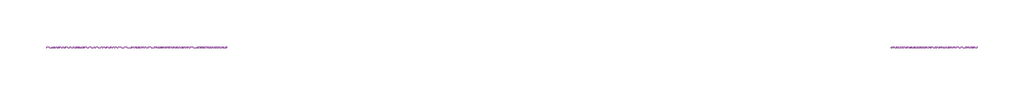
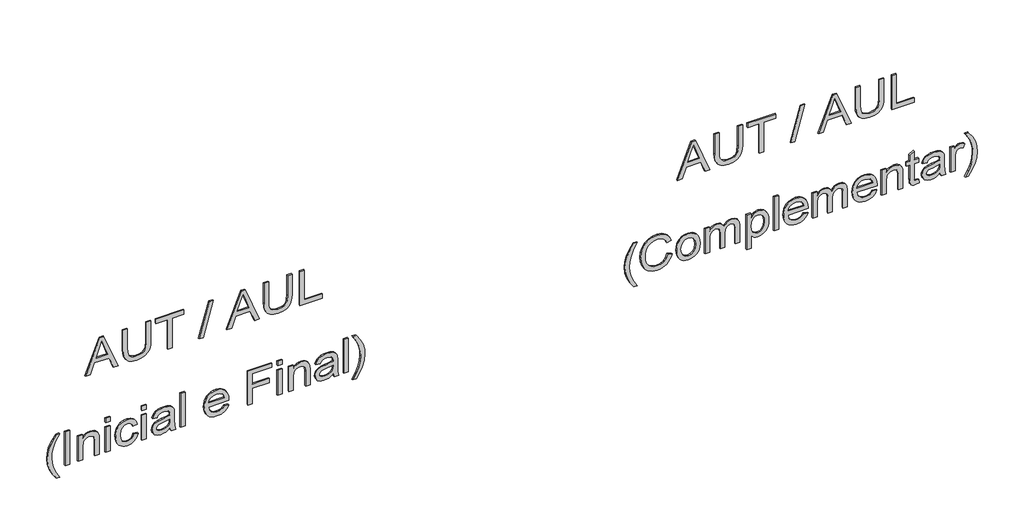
# One storey, part 2 of 14: 2 proxies.
"""IFC4 building model written with IfcOpenShell, lengths in millimetres."""

from ifc_helpers import new_model, si_unit, frame, origin, place, context, project, spatial, polyline, outline, extrude, element, save

model = new_model("IFC4")

# Units and contexts
model_context = context("Model", 3, world=origin())
ifc_project = project(units=[si_unit("LENGTHUNIT", "METRE", prefix="MILLI")], contexts=[model_context])

# Site, building, storey
site = spatial("IfcSite", under=ifc_project)
building = spatial("IfcBuilding", under=site)
storey = spatial("IfcBuildingStorey", under=building, Name="04 - Marelli - Planta Baixa - Painéis de Vidro", Elevation=36000.0)

# Proxies
placement = place(None, origin())
element("IfcBuildingElementProxy", 1, Name="300mm Arial", ObjectType="300mm Arial", at=placement, inside=storey, context=model_context, shape_type="SweptSolid", body=[
    extrude(outline(polyline([(42065.9244535, 2921.6887726), (42065.9244535, 2961.4936045), (42160.1022443, 2995.9273592), (42160.1022443, 3120.0507444), (42065.9244535, 3154.5580756), (42065.9244535, 3194.3629074), (42367.293384, 3074.065495), (42367.293384, 3041.986185), (42065.9244535, 2921.6887726)]), holes=[polyline([(42197.7733606, 3009.7597223), (42278.3395176, 3039.2638583), (42329.6222677, 3058.02584), (42271.8647944, 3079.1422666), (42197.7733606, 3106.2919578), (42197.7733606, 3009.7597223)])]), frame((0.0, 8778.3159498, 0.0), z_axis=(0.0, 1.0, 0.0), x_axis=(0.0, 0.0, 1.0)), (0.0, 0.0, 1.0), 10.0),
    extrude(outline(polyline([(42367.293384, 3432.3825583), (42194.7567282, 3432.3825583), (42147.5942565, 3427.6184865), (42130.8556257, 3421.6633967), (42118.6787316, 3413.326271), (42110.0197092, 3402.1932421), (42103.8346931, 3387.8504428), (42098.8866803, 3349.535533), (42101.3882779, 3325.3656859), (42108.8930706, 3305.2425408), (42121.0055853, 3289.8098911), (42137.3303488, 3279.7115303), (42160.9023876, 3274.1381181), (42194.7567282, 3272.280314), (42367.293384, 3272.280314), (42367.293384, 3234.6091977), (42193.4323531, 3234.6091977), (42150.6568741, 3237.4694802), (42117.9797559, 3246.0503278), (42093.6167707, 3261.3174306), (42075.783691, 3284.2364789), (42064.8575957, 3314.8166697), (42061.215564, 3353.0672002), (42065.4002217, 3392.1730563), (42077.9541948, 3422.9647792), (42097.176029, 3445.4975515), (42121.3642702, 3459.8265552), (42152.7170132, 3467.4968948), (42193.4323531, 3470.0536746), (42367.293384, 3470.0536746), (42367.293384, 3432.3825583)])), frame((0.0, 8778.3159498, 0.0), z_axis=(0.0, 1.0, 0.0), x_axis=(0.0, 0.0, 1.0)), (0.0, 0.0, 1.0), 10.0),
    extrude(outline(polyline([(42065.9244535, 3611.3203608), (42065.9244535, 3648.9914771), (42329.6222677, 3648.9914771), (42329.6222677, 3747.8781574), (42367.293384, 3747.8781574), (42367.293384, 3512.4336805), (42329.6222677, 3512.4336805), (42329.6222677, 3611.3203608), (42065.9244535, 3611.3203608)])), frame((0.0, 8778.3159498, 0.0), z_axis=(0.0, 1.0, 0.0), x_axis=(0.0, 0.0, 1.0)), (0.0, 0.0, 1.0), 10.0),
    extrude(outline(polyline([(42065.9244535, 3875.0181749), (42065.9244535, 3909.0104713), (42367.293384, 3993.770483), (42367.293384, 3959.7781866), (42065.9244535, 3875.0181749)])), frame((0.0, 8778.3159498, 0.0), z_axis=(0.0, 1.0, 0.0), x_axis=(0.0, 0.0, 1.0)), (0.0, 0.0, 1.0), 10.0),
    extrude(outline(polyline([(42065.9244535, 4108.3289363), (42065.9244535, 4148.1337681), (42160.1022443, 4182.5675229), (42160.1022443, 4306.6909081), (42065.9244535, 4341.1982392), (42065.9244535, 4381.0030711), (42367.293384, 4260.7056587), (42367.293384, 4228.6263487), (42065.9244535, 4108.3289363)]), holes=[polyline([(42197.7733606, 4196.3998859), (42278.3395176, 4225.9040219), (42329.6222677, 4244.6660037), (42271.8647944, 4265.7824302), (42197.7733606, 4292.9321214), (42197.7733606, 4196.3998859)])]), frame((0.0, 8778.3159498, 0.0), z_axis=(0.0, 1.0, 0.0), x_axis=(0.0, 0.0, 1.0)), (0.0, 0.0, 1.0), 10.0),
    extrude(outline(polyline([(42367.293384, 4619.022722), (42194.7567282, 4619.022722), (42147.5942565, 4614.2586501), (42130.8556257, 4608.3035603), (42118.6787316, 4599.9664346), (42110.0197092, 4588.8334057), (42103.8346931, 4574.4906065), (42098.8866803, 4536.1756967), (42101.3882779, 4512.0058496), (42108.8930706, 4491.8827044), (42121.0055853, 4476.4500547), (42137.3303488, 4466.351694), (42160.9023876, 4460.7782817), (42194.7567282, 4458.9204777), (42367.293384, 4458.9204777), (42367.293384, 4421.2493614), (42193.4323531, 4421.2493614), (42150.6568741, 4424.1096439), (42117.9797559, 4432.6904914), (42093.6167707, 4447.9575942), (42075.783691, 4470.8766425), (42064.8575957, 4501.4568334), (42061.215564, 4539.7073638), (42065.4002217, 4578.8132199), (42077.9541948, 4609.6049429), (42097.176029, 4632.1377151), (42121.3642702, 4646.4667188), (42152.7170132, 4654.1370584), (42193.4323531, 4656.6938383), (42367.293384, 4656.6938383), (42367.293384, 4619.022722)])), frame((0.0, 8778.3159498, 0.0), z_axis=(0.0, 1.0, 0.0), x_axis=(0.0, 0.0, 1.0)), (0.0, 0.0, 1.0), 10.0),
    extrude(outline(polyline([(42065.9244535, 4722.6182918), (42065.9244535, 4910.9738733), (42103.5955698, 4910.9738733), (42103.5955698, 4760.2894081), (42367.293384, 4760.2894081), (42367.293384, 4722.6182918), (42065.9244535, 4722.6182918)])), frame((0.0, 8778.3159498, 0.0), z_axis=(0.0, 1.0, 0.0), x_axis=(0.0, 0.0, 1.0)), (0.0, 0.0, 1.0), 10.0),
    extrude(outline(polyline([(41249.3155348, 2674.2513427), (41249.3155348, 2702.5046799), (41297.5540614, 2673.6627315), (41345.8109821, 2653.0613397), (41394.0862969, 2640.7005047), (41442.3800058, 2636.5802264), (41480.2534572, 2638.9530652), (41517.9429677, 2646.0715818), (41575.7740173, 2667.2615848), (41635.4444769, 2702.5046799), (41635.4444769, 2674.2513427), (41584.934279, 2639.5600705), (41534.2033518, 2615.2430706), (41489.4137189, 2602.9926002), (41442.600735, 2598.9091101), (41389.2210575, 2604.3721577), (41337.68079, 2620.7613006), (41290.2791949, 2645.0599063), (41249.3155348, 2674.2513427)])), frame((0.0, 8778.3159498, 0.0), z_axis=(0.0, 1.0, 0.0), x_axis=(0.0, 0.0, 1.0)), (0.0, 0.0, 1.0), 10.0),
    extrude(outline(polyline([(2787.2646916, 8778.3159498), (2749.5935753, 8778.3159498), (2749.5935753, 8788.3159498), (2787.2646916, 8788.3159498), (2787.2646916, 8778.3159498)])), frame((0.0, 0.0, 41334.0755465), z_axis=(0.0, 0.0, 1.0), x_axis=(1.0, 0.0, 0.0)), (0.0, 0.0, 1.0), 301.3689304),
    extrude(outline(polyline([(41334.0755465, 2857.8980347), (41334.0755465, 2895.569151), (41451.5034793, 2895.569151), (41486.2131456, 2899.8641733), (41498.5877762, 2905.2329511), (41507.6422718, 2912.7492401), (41518.7339139, 2931.5572071), (41522.431128, 2953.6209298), (41520.7848561, 2967.5176722), (41515.8460403, 2979.4830341), (41508.1481095, 2988.8180397), (41498.2244927, 2994.8237133), (41464.8943839, 2999.1647208), (41334.0755465, 2999.1647208), (41334.0755465, 3036.8358371), (41469.9711555, 3036.8358371), (41506.391473, 3034.8492743), (41534.0929872, 3023.5552971), (41544.6328064, 3013.4569363), (41552.9285454, 2999.2750854), (41558.3088196, 2982.2697402), (41560.1022443, 2963.7008965), (41557.8765582, 2942.7224257), (41551.1995, 2924.3743112), (41540.0710697, 2908.6565529), (41524.4912672, 2895.569151), (41555.3933548, 2895.569151), (41555.3933548, 2857.8980347), (41334.0755465, 2857.8980347)])), frame((0.0, 8778.3159498, 0.0), z_axis=(0.0, 1.0, 0.0), x_axis=(0.0, 0.0, 1.0)), (0.0, 0.0, 1.0), 10.0),
    extrude(outline(polyline([(3126.3047383, 8778.3159498), (3088.633622, 8778.3159498), (3088.633622, 8788.3159498), (3126.3047383, 8788.3159498), (3126.3047383, 8778.3159498)])), frame((0.0, 0.0, 41597.7733606), z_axis=(0.0, 0.0, 1.0), x_axis=(1.0, 0.0, 0.0)), (0.0, 0.0, 1.0), 37.6711163),
    extrude(outline(polyline([(3126.3047383, 8778.3159498), (3088.633622, 8778.3159498), (3088.633622, 8788.3159498), (3126.3047383, 8788.3159498), (3126.3047383, 8778.3159498)])), frame((0.0, 0.0, 41334.0755465), z_axis=(0.0, 0.0, 1.0), x_axis=(1.0, 0.0, 0.0)), (0.0, 0.0, 1.0), 221.3178083),
    extrude(outline(polyline([(41414.1266686, 3324.0780989), (41393.2493654, 3317.6493611), (41378.5892679, 3306.015093), (41369.9256469, 3290.0214232), (41367.0377732, 3270.5144804), (41371.6638893, 3246.4825891), (41385.5422376, 3227.5090752), (41409.6477053, 3215.1758313), (41444.9551798, 3211.06475), (41479.7936048, 3215.2678018), (41503.816299, 3227.8769572), (41517.7774208, 3247.199959), (41522.431128, 3271.54455), (41520.0674862, 3288.0348605), (41512.9765607, 3301.8948146), (41501.1951398, 3312.5358013), (41484.7600117, 3319.3692094), (41489.4689012, 3357.0403257), (41519.4512838, 3346.7856151), (41541.7081445, 3328.5294711), (41555.5037194, 3303.0812341), (41560.1022443, 3271.2502444), (41556.7545181, 3244.6063909), (41546.7113397, 3220.0042825), (41529.9635118, 3199.439679), (41506.5018376, 3184.9083402), (41477.448357, 3176.2723103), (41443.9251102, 3173.3936337), (41417.8675687, 3175.0789931), (41395.024396, 3180.1350713), (41375.3955923, 3188.5618682), (41358.9811575, 3200.359384), (41346.0248135, 3214.9344088), (41336.7702821, 3231.6937329), (41331.2175632, 3250.6373564), (41329.3666569, 3271.7652792), (41334.6733547, 3304.3964122), (41350.593448, 3331.5093152), (41375.9129264, 3351.2461843), (41409.4177791, 3361.7492153), (41414.1266686, 3324.0780989)])), frame((0.0, 8778.3159498, 0.0), z_axis=(0.0, 1.0, 0.0), x_axis=(0.0, 0.0, 1.0)), (0.0, 0.0, 1.0), 10.0),
    extrude(outline(polyline([(3432.3825583, 8778.3159498), (3394.711442, 8778.3159498), (3394.711442, 8788.3159498), (3432.3825583, 8788.3159498), (3432.3825583, 8778.3159498)])), frame((0.0, 0.0, 41597.7733606), z_axis=(0.0, 0.0, 1.0), x_axis=(1.0, 0.0, 0.0)), (0.0, 0.0, 1.0), 37.6711163),
    extrude(outline(polyline([(3432.3825583, 8778.3159498), (3394.711442, 8778.3159498), (3394.711442, 8788.3159498), (3432.3825583, 8788.3159498), (3432.3825583, 8778.3159498)])), frame((0.0, 0.0, 41334.0755465), z_axis=(0.0, 0.0, 1.0), x_axis=(1.0, 0.0, 0.0)), (0.0, 0.0, 1.0), 221.3178083),
    extrude(outline(polyline([(41362.3288837, 3630.1559189), (41334.0755465, 3639.573698), (41334.0755465, 3677.2448143), (41365.7501862, 3669.7400216), (41431.1963932, 3667.8270352), (41478.0645594, 3667.8270352), (41511.0267861, 3665.9876253), (41525.1442577, 3661.4442826), (41536.5945848, 3654.4361306), (41545.856014, 3643.8687203), (41553.406792, 3628.6476028), (41558.4283812, 3608.4600783), (41560.1022443, 3582.9934472), (41558.207652, 3556.4415641), (41552.5238752, 3533.2925896), (41543.3452194, 3514.365061), (41530.9659903, 3500.4775156), (41514.7791825, 3490.7194457), (41494.1777908, 3484.1803432), (41489.4689012, 3521.8514596), (41505.1314772, 3529.3378582), (41515.1838527, 3540.0248301), (41520.6193092, 3555.6966031), (41522.431128, 3578.1374048), (41519.7088012, 3602.3808283), (41511.5418209, 3619.7816467), (41500.5421493, 3627.5623509), (41483.7299421, 3630.1559189), (41475.3422326, 3629.9351897), (41468.3524747, 3603.1165923), (41462.3927864, 3564.5993474), (41456.7274037, 3532.0050026), (41444.3665686, 3505.6278636), (41434.8752131, 3495.0236651), (41422.7351073, 3486.6819408), (41408.5532564, 3481.2740755), (41392.9366657, 3479.4714537), (41367.6079903, 3484.2447226), (41347.2457219, 3498.5645293), (41333.8364232, 3521.7870802), (41329.3666569, 3553.2685819), (41331.224461, 3574.1366881), (41336.7978732, 3593.6252368), (41346.896234, 3612.1572923), (41362.3288837, 3630.1559189)]), holes=[polyline([(41437.6711163, 3630.1559189), (41427.0025384, 3629.9351897), (41410.0799667, 3628.4452677), (41397.8662844, 3623.9755014), (41386.0112871, 3613.8955347), (41376.0508821, 3599.4009841), (41369.2910505, 3581.5219192), (41367.0377732, 3561.2884094), (41369.0795183, 3542.2045309), (41375.2047535, 3528.3629709), (41384.3834093, 3519.9476702), (41395.5854161, 3517.14257), (41410.0799667, 3522.2929179), (41420.0127805, 3536.9714096), (41426.1196217, 3569.3818133), (41437.6711163, 3630.1559189)])]), frame((0.0, 8778.3159498, 0.0), z_axis=(0.0, 1.0, 0.0), x_axis=(0.0, 0.0, 1.0)), (0.0, 0.0, 1.0), 10.0),
    extrude(outline(polyline([(3757.2959365, 8778.3159498), (3719.6248202, 8778.3159498), (3719.6248202, 8788.3159498), (3757.2959365, 8788.3159498), (3757.2959365, 8778.3159498)])), frame((0.0, 0.0, 41334.0755465), z_axis=(0.0, 0.0, 1.0), x_axis=(1.0, 0.0, 0.0)), (0.0, 0.0, 1.0), 301.3689304),
    extrude(outline(polyline([(41400.0, 4086.4767457), (41385.1191733, 4075.9185325), (41374.9104479, 4062.1965341), (41369.0059419, 4045.3107505), (41367.0377732, 4025.2611818), (41371.2868103, 3998.5989342), (41384.0339214, 3976.7375466), (41404.7640718, 3961.5900054), (41432.9622268, 3955.0692971), (41432.9622268, 4124.3685913), (41443.1157698, 4124.5893205), (41469.3687487, 4122.8027935), (41492.5039277, 4117.4432127), (41512.5213067, 4108.510578), (41529.4208859, 4096.0048894), (41542.8439802, 4080.6849036), (41552.4319047, 4063.3093771), (41558.1846594, 4043.87831), (41560.1022443, 4022.3917022), (41558.1800609, 4000.1900238), (41552.4135106, 3980.1588491), (41542.8025935, 3962.2981783), (41529.3473095, 3946.6080112), (41512.4109422, 3933.8287104), (41492.3567749, 3924.7006384), (41469.1848077, 3919.2237952), (41442.8950406, 3917.3981808), (41417.467497, 3919.2054011), (41395.0427901, 3924.627062), (41375.62092, 3933.6631635), (41359.2018867, 3946.3137056), (41346.1489737, 3962.0452594), (41336.8254644, 3980.324396), (41331.2313588, 4001.1511155), (41329.3666569, 4024.5254178), (41333.6892704, 4060.1823801), (41346.6571107, 4088.8679787), (41367.4608375, 4110.1039669), (41395.2911105, 4123.4120981), (41400.0, 4086.4767457)]), holes=[polyline([(41470.6333431, 3955.0692971), (41491.8693312, 3961.2589116), (41508.3412476, 3975.8546298), (41518.9086579, 3996.8514947), (41522.431128, 4022.2445494), (41518.0165441, 4049.8724872), (41504.7727922, 4071.8350423), (41490.535759, 4081.8230385), (41470.6333431, 4086.9182041), (41470.6333431, 3955.0692971)])]), frame((0.0, 8778.3159498, 0.0), z_axis=(0.0, 1.0, 0.0), x_axis=(0.0, 0.0, 1.0)), (0.0, 0.0, 1.0), 10.0),
    extrude(outline(polyline([(41334.0755465, 4284.6915648), (41334.0755465, 4322.3626811), (41470.6333431, 4322.3626811), (41470.6333431, 4463.6293672), (41508.3044594, 4463.6293672), (41508.3044594, 4322.3626811), (41597.7733606, 4322.3626811), (41597.7733606, 4487.1738149), (41635.4444769, 4487.1738149), (41635.4444769, 4284.6915648), (41334.0755465, 4284.6915648)])), frame((0.0, 8778.3159498, 0.0), z_axis=(0.0, 1.0, 0.0), x_axis=(0.0, 0.0, 1.0)), (0.0, 0.0, 1.0), 10.0),
    extrude(outline(polyline([(4571.9338266, 8778.3159498), (4534.2627103, 8778.3159498), (4534.2627103, 8788.3159498), (4571.9338266, 8788.3159498), (4571.9338266, 8778.3159498)])), frame((0.0, 0.0, 41597.7733606), z_axis=(0.0, 0.0, 1.0), x_axis=(1.0, 0.0, 0.0)), (0.0, 0.0, 1.0), 37.6711163),
    extrude(outline(polyline([(4571.9338266, 8778.3159498), (4534.2627103, 8778.3159498), (4534.2627103, 8788.3159498), (4571.9338266, 8788.3159498), (4571.9338266, 8778.3159498)])), frame((0.0, 0.0, 41334.0755465), z_axis=(0.0, 0.0, 1.0), x_axis=(1.0, 0.0, 0.0)), (0.0, 0.0, 1.0), 221.3178083),
    extrude(outline(polyline([(41334.0755465, 4628.440501), (41334.0755465, 4666.1116174), (41451.5034793, 4666.1116174), (41486.2131456, 4670.4066396), (41498.5877762, 4675.7754175), (41507.6422718, 4683.2917065), (41518.7339139, 4702.0996735), (41522.431128, 4724.1633962), (41520.7848561, 4738.0601386), (41515.8460403, 4750.0255005), (41508.1481095, 4759.3605061), (41498.2244927, 4765.3661796), (41464.8943839, 4769.7071872), (41334.0755465, 4769.7071872), (41334.0755465, 4807.3783035), (41469.9711555, 4807.3783035), (41506.391473, 4805.3917407), (41534.0929872, 4794.0977635), (41544.6328064, 4783.9994027), (41552.9285454, 4769.8175518), (41558.3088196, 4752.8122066), (41560.1022443, 4734.2433629), (41557.8765582, 4713.2648921), (41551.1995, 4694.9167776), (41540.0710697, 4679.1990193), (41524.4912672, 4666.1116174), (41555.3933548, 4666.1116174), (41555.3933548, 4628.440501), (41334.0755465, 4628.440501)])), frame((0.0, 8778.3159498, 0.0), z_axis=(0.0, 1.0, 0.0), x_axis=(0.0, 0.0, 1.0)), (0.0, 0.0, 1.0), 10.0),
    extrude(outline(polyline([(41362.3288837, 5000.4427746), (41334.0755465, 5009.8605536), (41334.0755465, 5047.5316699), (41365.7501862, 5040.0268772), (41431.1963932, 5038.1138909), (41478.0645594, 5038.1138909), (41511.0267861, 5036.2744809), (41525.1442577, 5031.7311383), (41536.5945848, 5024.7229862), (41545.856014, 5014.1555759), (41553.406792, 4998.9344584), (41558.4283812, 4978.7469339), (41560.1022443, 4953.2803028), (41558.207652, 4926.7284198), (41552.5238752, 4903.5794452), (41543.3452194, 4884.6519166), (41530.9659903, 4870.7643713), (41514.7791825, 4861.0063013), (41494.1777908, 4854.4671989), (41489.4689012, 4892.1383152), (41505.1314772, 4899.6247138), (41515.1838527, 4910.3116857), (41520.6193092, 4925.9834587), (41522.431128, 4948.4242604), (41519.7088012, 4972.6676839), (41511.5418209, 4990.0685023), (41500.5421493, 4997.8492065), (41483.7299421, 5000.4427746), (41475.3422326, 5000.2220454), (41468.3524747, 4973.4034479), (41462.3927864, 4934.886203), (41456.7274037, 4902.2918583), (41444.3665686, 4875.9147192), (41434.8752131, 4865.3105207), (41422.7351073, 4856.9687964), (41408.5532564, 4851.5609311), (41392.9366657, 4849.7583093), (41367.6079903, 4854.5315782), (41347.2457219, 4868.8513849), (41333.8364232, 4892.0739358), (41329.3666569, 4923.5554376), (41331.224461, 4944.4235438), (41336.7978732, 4963.9120924), (41346.896234, 4982.444148), (41362.3288837, 5000.4427746)]), holes=[polyline([(41437.6711163, 5000.4427746), (41427.0025384, 5000.2220454), (41410.0799667, 4998.7321233), (41397.8662844, 4994.262357), (41386.0112871, 4984.1823904), (41376.0508821, 4969.6878398), (41369.2910505, 4951.8087748), (41367.0377732, 4931.5752651), (41369.0795183, 4912.4913866), (41375.2047535, 4898.6498265), (41384.3834093, 4890.2345259), (41395.5854161, 4887.4294256), (41410.0799667, 4892.5797736), (41420.0127805, 4907.2582652), (41426.1196217, 4939.668669), (41437.6711163, 5000.4427746)])]), frame((0.0, 8778.3159498, 0.0), z_axis=(0.0, 1.0, 0.0), x_axis=(0.0, 0.0, 1.0)), (0.0, 0.0, 1.0), 10.0),
    extrude(outline(polyline([(5127.5827921, 8778.3159498), (5089.9116758, 8778.3159498), (5089.9116758, 8788.3159498), (5127.5827921, 8788.3159498), (5127.5827921, 8778.3159498)])), frame((0.0, 0.0, 41334.0755465), z_axis=(0.0, 0.0, 1.0), x_axis=(1.0, 0.0, 0.0)), (0.0, 0.0, 1.0), 301.3689304),
    extrude(outline(polyline([(41249.3155348, 5193.5072456), (41290.2791949, 5222.5607262), (41337.68079, 5246.8869231), (41389.2210575, 5263.3588395), (41442.600735, 5268.8494782), (41489.4137189, 5264.7659881), (41534.2033518, 5252.5155177), (41584.934279, 5228.1985178), (41635.4444769, 5193.5072456), (41635.4444769, 5165.2539084), (41575.1854061, 5200.7177327), (41546.8400984, 5212.6922917), (41517.2807801, 5221.6870065), (41479.9775458, 5228.8055231), (41442.3800058, 5231.1783619), (41394.0862969, 5227.0580836), (41345.8109821, 5214.6972486), (41297.5540614, 5194.0958568), (41249.3155348, 5165.2539084), (41249.3155348, 5193.5072456)])), frame((0.0, 8778.3159498, 0.0), z_axis=(0.0, 1.0, 0.0), x_axis=(0.0, 0.0, 1.0)), (0.0, 0.0, 1.0), 10.0),
])
element("IfcBuildingElementProxy", 2, Name="300mm Arial", ObjectType="300mm Arial", at=placement, inside=storey, context=model_context, shape_type="SweptSolid", body=[
    extrude(outline(polyline([(42065.9244535, 7893.4354354), (42065.9244535, 7933.2402673), (42160.1022443, 7967.674022), (42160.1022443, 8091.7974072), (42065.9244535, 8126.3047383), (42065.9244535, 8166.1095702), (42367.293384, 8045.8121578), (42367.293384, 8013.7328478), (42065.9244535, 7893.4354354)]), holes=[polyline([(42197.7733606, 7981.506385), (42278.3395176, 8011.0105211), (42329.6222677, 8029.7725028), (42271.8647944, 8050.8889293), (42197.7733606, 8078.0386206), (42197.7733606, 7981.506385)])]), frame((0.0, 8778.3159498, 0.0), z_axis=(0.0, 1.0, 0.0), x_axis=(0.0, 0.0, 1.0)), (0.0, 0.0, 1.0), 10.0),
    extrude(outline(polyline([(42367.293384, 8404.1292211), (42194.7567282, 8404.1292211), (42147.5942565, 8399.3651493), (42130.8556257, 8393.4100595), (42118.6787316, 8385.0729337), (42110.0197092, 8373.9399049), (42103.8346931, 8359.5971056), (42098.8866803, 8321.2821958), (42101.3882779, 8297.1123487), (42108.8930706, 8276.9892036), (42121.0055853, 8261.5565539), (42137.3303488, 8251.4581931), (42160.9023876, 8245.8847809), (42194.7567282, 8244.0269768), (42367.293384, 8244.0269768), (42367.293384, 8206.3558605), (42193.4323531, 8206.3558605), (42150.6568741, 8209.216143), (42117.9797559, 8217.7969905), (42093.6167707, 8233.0640933), (42075.783691, 8255.9831416), (42064.8575957, 8286.5633325), (42061.215564, 8324.8138629), (42065.4002217, 8363.919719), (42077.9541948, 8394.711442), (42097.176029, 8417.2442142), (42121.3642702, 8431.5732179), (42152.7170132, 8439.2435575), (42193.4323531, 8441.8003374), (42367.293384, 8441.8003374), (42367.293384, 8404.1292211)])), frame((0.0, 8778.3159498, 0.0), z_axis=(0.0, 1.0, 0.0), x_axis=(0.0, 0.0, 1.0)), (0.0, 0.0, 1.0), 10.0),
    extrude(outline(polyline([(42065.9244535, 8583.0670235), (42065.9244535, 8620.7381399), (42329.6222677, 8620.7381399), (42329.6222677, 8719.6248202), (42367.293384, 8719.6248202), (42367.293384, 8484.1803432), (42329.6222677, 8484.1803432), (42329.6222677, 8583.0670235), (42065.9244535, 8583.0670235)])), frame((0.0, 8778.3159498, 0.0), z_axis=(0.0, 1.0, 0.0), x_axis=(0.0, 0.0, 1.0)), (0.0, 0.0, 1.0), 10.0),
    extrude(outline(polyline([(42065.9244535, 8846.7648377), (42065.9244535, 8880.757134), (42367.293384, 8965.5171457), (42367.293384, 8931.5248494), (42065.9244535, 8846.7648377)])), frame((0.0, 8778.3159498, 0.0), z_axis=(0.0, 1.0, 0.0), x_axis=(0.0, 0.0, 1.0)), (0.0, 0.0, 1.0), 10.0),
    extrude(outline(polyline([(42065.9244535, 9080.075599), (42065.9244535, 9119.8804309), (42160.1022443, 9154.3141857), (42160.1022443, 9278.4375708), (42065.9244535, 9312.944902), (42065.9244535, 9352.7497339), (42367.293384, 9232.4523214), (42367.293384, 9200.3730115), (42065.9244535, 9080.075599)]), holes=[polyline([(42197.7733606, 9168.1465487), (42278.3395176, 9197.6506847), (42329.6222677, 9216.4126664), (42271.8647944, 9237.529093), (42197.7733606, 9264.6787842), (42197.7733606, 9168.1465487)])]), frame((0.0, 8778.3159498, 0.0), z_axis=(0.0, 1.0, 0.0), x_axis=(0.0, 0.0, 1.0)), (0.0, 0.0, 1.0), 10.0),
    extrude(outline(polyline([(42367.293384, 9590.7693847), (42194.7567282, 9590.7693847), (42147.5942565, 9586.0053129), (42130.8556257, 9580.0502231), (42118.6787316, 9571.7130974), (42110.0197092, 9560.5800685), (42103.8346931, 9546.2372692), (42098.8866803, 9507.9223594), (42101.3882779, 9483.7525123), (42108.8930706, 9463.6293672), (42121.0055853, 9448.1967175), (42137.3303488, 9438.0983567), (42160.9023876, 9432.5249445), (42194.7567282, 9430.6671404), (42367.293384, 9430.6671404), (42367.293384, 9392.9960241), (42193.4323531, 9392.9960241), (42150.6568741, 9395.8563066), (42117.9797559, 9404.4371542), (42093.6167707, 9419.704257), (42075.783691, 9442.6233053), (42064.8575957, 9473.2034961), (42061.215564, 9511.4540266), (42065.4002217, 9550.5598827), (42077.9541948, 9581.3516057), (42097.176029, 9603.8843779), (42121.3642702, 9618.2133816), (42152.7170132, 9625.8837212), (42193.4323531, 9628.440501), (42367.293384, 9628.440501), (42367.293384, 9590.7693847)])), frame((0.0, 8778.3159498, 0.0), z_axis=(0.0, 1.0, 0.0), x_axis=(0.0, 0.0, 1.0)), (0.0, 0.0, 1.0), 10.0),
    extrude(outline(polyline([(42065.9244535, 9694.3649546), (42065.9244535, 9882.7205361), (42103.5955698, 9882.7205361), (42103.5955698, 9732.0360709), (42367.293384, 9732.0360709), (42367.293384, 9694.3649546), (42065.9244535, 9694.3649546)])), frame((0.0, 8778.3159498, 0.0), z_axis=(0.0, 1.0, 0.0), x_axis=(0.0, 0.0, 1.0)), (0.0, 0.0, 1.0), 10.0),
    extrude(outline(polyline([(41249.3155348, 7528.275767), (41249.3155348, 7556.5291042), (41297.5540614, 7527.6871558), (41345.8109821, 7507.0857641), (41394.0862969, 7494.724929), (41442.3800058, 7490.6046507), (41480.2534572, 7492.9774895), (41517.9429677, 7500.0960061), (41575.7740173, 7521.2860091), (41635.4444769, 7556.5291042), (41635.4444769, 7528.275767), (41584.934279, 7493.5844948), (41534.2033518, 7469.267495), (41489.4137189, 7457.0170245), (41442.600735, 7452.9335344), (41389.2210575, 7458.396582), (41337.68079, 7474.7857249), (41290.2791949, 7499.0843307), (41249.3155348, 7528.275767)])), frame((0.0, 8778.3159498, 0.0), z_axis=(0.0, 1.0, 0.0), x_axis=(0.0, 0.0, 1.0)), (0.0, 0.0, 1.0), 10.0),
    extrude(outline(polyline([(41441.2027835, 7810.8091393), (41408.9395325, 7798.6230482), (41385.7261786, 7778.8401939), (41371.7098746, 7752.6377988), (41367.0377732, 7721.1930852), (41370.4682728, 7694.218138), (41380.7597717, 7669.2113593), (41397.9858461, 7648.3524502), (41422.2200725, 7633.8211114), (41452.3128197, 7625.2954462), (41487.1144565, 7622.4535577), (41515.5333406, 7624.8539878), (41543.1060961, 7632.0552778), (41567.4966724, 7645.179468), (41586.3690188, 7665.3485984), (41598.4539423, 7691.9280725), (41602.4822501, 7724.283294), (41598.8494154, 7752.3526902), (41587.9509113, 7775.1981621), (41569.1061561, 7793.0404389), (41541.6345681, 7806.1002497), (41550.6108888, 7843.771366), (41588.4291579, 7827.1339028), (41603.751443, 7815.3317886), (41616.6824952, 7801.2074192), (41626.9510013, 7785.0275092), (41634.2856486, 7767.058773), (41640.1533665, 7725.754822), (41635.6192209, 7687.8997647), (41622.0167841, 7653.3556453), (41599.6771499, 7624.2285884), (41568.9314122, 7602.6247182), (41530.9843844, 7589.2430106), (41487.0408801, 7584.7824414), (41445.3782441, 7588.7279758), (41406.4747231, 7600.564579), (41373.3837376, 7619.9519602), (41349.1587083, 7646.5498284), (41334.3146698, 7681.2502976), (41329.3666569, 7724.9454816), (41331.0014325, 7747.3678892), (41335.9057594, 7767.987675), (41344.0796375, 7786.8048391), (41355.5230668, 7803.8193814), (41370.0796975, 7818.6956095), (41387.5931797, 7831.0978313), (41408.0635135, 7841.0260467), (41431.4906988, 7848.4802556), (41441.2027835, 7810.8091393)])), frame((0.0, 8778.3159498, 0.0), z_axis=(0.0, 1.0, 0.0), x_axis=(0.0, 0.0, 1.0)), (0.0, 0.0, 1.0), 10.0),
    extrude(outline(polyline([(41444.7344506, 7886.1513719), (41418.4124939, 7887.8597239), (41395.3646869, 7892.9847799), (41375.5910296, 7901.52654), (41359.0915221, 7913.4850041), (41346.0868936, 7928.2117802), (41336.7978732, 7945.0584764), (41331.224461, 7964.0250925), (41329.3666569, 7985.1116286), (41332.7419742, 8011.7002998), (41342.8679261, 8036.1368613), (41359.1007192, 8056.7106619), (41380.7965599, 8071.7110503), (41409.767267, 8080.8713119), (41447.8246594, 8083.9247325), (41472.7049786, 8082.1979864), (41494.7388108, 8077.017748), (41513.9261561, 8068.3840175), (41530.2670145, 8056.2967947), (41543.3199275, 8041.4872451), (41552.6434368, 8024.6865342), (41558.2375424, 8005.8946621), (41560.1022443, 7985.1116286), (41558.5709355, 7966.2852675), (41553.9770091, 7948.9488285), (41546.3204651, 7933.1023115), (41535.6013034, 7918.7457167), (41518.830483, 7904.4856908), (41498.095734, 7894.2999581), (41473.3970566, 7888.1885184), (41444.7344506, 7886.1513719)]), holes=[polyline([(41444.808027, 7923.8224882), (41478.8830968, 7928.1818898), (41503.1173232, 7941.2600948), (41517.6026768, 7960.9417815), (41522.431128, 7985.1116286), (41517.5842827, 8009.0331553), (41503.0437468, 8028.705645), (41479.0854319, 8041.8666234), (41445.9852494, 8046.2536162), (41411.1468245, 8041.8942145), (41386.535519, 8028.8160096), (41371.9122097, 8009.1711111), (41367.0377732, 7985.1116286), (41371.8846185, 7960.9417815), (41386.4251544, 7941.2600948), (41410.7145631, 7928.1818898), (41444.808027, 7923.8224882)])]), frame((0.0, 8778.3159498, 0.0), z_axis=(0.0, 1.0, 0.0), x_axis=(0.0, 0.0, 1.0)), (0.0, 0.0, 1.0), 10.0),
    extrude(outline(polyline([(41334.0755465, 8126.3047383), (41334.0755465, 8163.9758546), (41445.6909438, 8163.9758546), (41471.6082304, 8165.4105944), (41490.6461236, 8169.7148138), (41504.368122, 8177.2196065), (41514.3377241, 8188.2560663), (41520.407777, 8201.6285769), (41522.431128, 8216.1415216), (41519.3961015, 8233.2204432), (41510.2910222, 8244.7259526), (41495.0974958, 8251.2650551), (41473.7971282, 8253.4447559), (41334.0755465, 8253.4447559), (41334.0755465, 8291.1158722), (41459.008272, 8291.1158722), (41487.7214617, 8294.8038892), (41507.3479662, 8305.8679402), (41518.6603375, 8322.5054034), (41522.431128, 8342.9136571), (41520.9596, 8354.4743488), (41516.5450161, 8364.4347538), (41509.7300021, 8372.1786698), (41501.0571841, 8377.0898945), (41469.6032735, 8380.5847734), (41334.0755465, 8380.5847734), (41334.0755465, 8418.2558897), (41485.7900813, 8418.2558897), (41518.7615051, 8413.9424733), (41541.8920855, 8401.0022241), (41555.5497046, 8380.0605416), (41560.1022443, 8351.742825), (41557.366122, 8332.2174881), (41549.1577549, 8314.6235317), (41535.4771432, 8298.9609557), (41516.3242869, 8285.2297603), (41534.7643719, 8277.0259918), (41548.5875379, 8264.4812157), (41557.2235677, 8247.6874026), (41560.1022443, 8226.736523), (41557.27875, 8207.183595), (41548.808267, 8189.8747471), (41535.702471, 8175.3066201), (41518.9730372, 8163.9758546), (41555.3933548, 8163.9758546), (41555.3933548, 8126.3047383), (41334.0755465, 8126.3047383)])), frame((0.0, 8778.3159498, 0.0), z_axis=(0.0, 1.0, 0.0), x_axis=(0.0, 0.0, 1.0)), (0.0, 0.0, 1.0), 10.0),
    extrude(outline(polyline([(41249.3155348, 8474.7625642), (41249.3155348, 8512.4336805), (41363.5061061, 8512.4336805), (41349.9956398, 8523.0746672), (41339.0419534, 8536.309222), (41331.785481, 8551.7694628), (41329.3666569, 8569.0875077), (41332.9810975, 8593.5056752), (41343.8244193, 8616.7282261), (41361.4459669, 8636.6674302), (41385.3950848, 8651.2355573), (41414.2094421, 8660.1474986), (41446.4267078, 8663.1181457), (41476.7217901, 8660.4877894), (41504.4784866, 8652.5967206), (41527.9861461, 8639.5369098), (41545.5341173, 8621.4003274), (41556.4602125, 8599.1250726), (41560.1022443, 8573.6492445), (41557.4994792, 8554.5193807), (41549.6911838, 8538.4797257), (41536.6773583, 8524.7209391), (41518.4580024, 8512.4336805), (41555.3933548, 8512.4336805), (41555.3933548, 8474.7625642), (41249.3155348, 8474.7625642)]), holes=[polyline([(41442.968617, 8512.4336805), (41477.1356573, 8516.7838851), (41502.0872537, 8529.8344988), (41517.3451594, 8548.5321013), (41522.431128, 8569.8232717), (41517.6486621, 8591.0316687), (41503.3012642, 8609.0394924), (41479.3521464, 8621.3451451), (41445.7645202, 8625.4470294), (41410.7237602, 8621.2439776), (41386.2412134, 8608.6348222), (41371.8386333, 8590.1395549), (41367.0377732, 8568.2781673), (41371.6730864, 8546.7662677), (41385.5790258, 8528.7308529), (41409.1970499, 8516.5079736), (41442.968617, 8512.4336805)])]), frame((0.0, 8778.3159498, 0.0), z_axis=(0.0, 1.0, 0.0), x_axis=(0.0, 0.0, 1.0)), (0.0, 0.0, 1.0), 10.0),
    extrude(outline(polyline([(8743.1692679, 8778.3159498), (8705.4981515, 8778.3159498), (8705.4981515, 8788.3159498), (8743.1692679, 8788.3159498), (8743.1692679, 8778.3159498)])), frame((0.0, 0.0, 41334.0755465), z_axis=(0.0, 0.0, 1.0), x_axis=(1.0, 0.0, 0.0)), (0.0, 0.0, 1.0), 301.3689304),
    extrude(outline(polyline([(41400.0, 8954.6278387), (41385.1191733, 8944.0696254), (41374.9104479, 8930.347627), (41369.0059419, 8913.4618434), (41367.0377732, 8893.4122747), (41371.2868103, 8866.7500271), (41384.0339214, 8844.8886395), (41404.7640718, 8829.7410984), (41432.9622268, 8823.22039), (41432.9622268, 8992.5196842), (41443.1157698, 8992.7404134), (41469.3687487, 8990.9538864), (41492.5039277, 8985.5943056), (41512.5213067, 8976.6616709), (41529.4208859, 8964.1559824), (41542.8439802, 8948.8359965), (41552.4319047, 8931.46047), (41558.1846594, 8912.0294029), (41560.1022443, 8890.5427951), (41558.1800609, 8868.3411167), (41552.4135106, 8848.3099421), (41542.8025935, 8830.4492712), (41529.3473095, 8814.7591041), (41512.4109422, 8801.9798033), (41492.3567749, 8792.8517313), (41469.1848077, 8787.3748881), (41442.8950406, 8785.5492737), (41417.467497, 8787.356494), (41395.0427901, 8792.7781549), (41375.62092, 8801.8142564), (41359.2018867, 8814.4647985), (41346.1489737, 8830.1963523), (41336.8254644, 8848.475489), (41331.2313588, 8869.3022084), (41329.3666569, 8892.6765107), (41333.6892704, 8928.3334731), (41346.6571107, 8957.0190716), (41367.4608375, 8978.2550598), (41395.2911105, 8991.563191), (41400.0, 8954.6278387)]), holes=[polyline([(41470.6333431, 8823.22039), (41491.8693312, 8829.4100046), (41508.3412476, 8844.0057227), (41518.9086579, 8865.0025876), (41522.431128, 8890.3956423), (41518.0165441, 8918.0235802), (41504.7727922, 8939.9861353), (41490.535759, 8949.9741314), (41470.6333431, 8955.0692971), (41470.6333431, 8823.22039)])]), frame((0.0, 8778.3159498, 0.0), z_axis=(0.0, 1.0, 0.0), x_axis=(0.0, 0.0, 1.0)), (0.0, 0.0, 1.0), 10.0),
    extrude(outline(polyline([(41334.0755465, 9030.4115297), (41334.0755465, 9068.082646), (41445.6909438, 9068.082646), (41471.6082304, 9069.5173858), (41490.6461236, 9073.8216051), (41504.368122, 9081.3263978), (41514.3377241, 9092.3628577), (41520.407777, 9105.7353682), (41522.431128, 9120.2483129), (41519.3961015, 9137.3272345), (41510.2910222, 9148.8327439), (41495.0974958, 9155.3718464), (41473.7971282, 9157.5515472), (41334.0755465, 9157.5515472), (41334.0755465, 9195.2226635), (41459.008272, 9195.2226635), (41487.7214617, 9198.9106805), (41507.3479662, 9209.9747315), (41518.6603375, 9226.6121948), (41522.431128, 9247.0204484), (41520.9596, 9258.5811401), (41516.5450161, 9268.5415452), (41509.7300021, 9276.2854612), (41501.0571841, 9281.1966858), (41469.6032735, 9284.6915648), (41334.0755465, 9284.6915648), (41334.0755465, 9322.3626811), (41485.7900813, 9322.3626811), (41518.7615051, 9318.0492647), (41541.8920855, 9305.1090155), (41555.5497046, 9284.1673329), (41560.1022443, 9255.8496163), (41557.366122, 9236.3242794), (41549.1577549, 9218.730323), (41535.4771432, 9203.0677471), (41516.3242869, 9189.3365516), (41534.7643719, 9181.1327831), (41548.5875379, 9168.5880071), (41557.2235677, 9151.794194), (41560.1022443, 9130.8433144), (41557.27875, 9111.2903863), (41548.808267, 9093.9815385), (41535.702471, 9079.4134114), (41518.9730372, 9068.082646), (41555.3933548, 9068.082646), (41555.3933548, 9030.4115297), (41334.0755465, 9030.4115297)])), frame((0.0, 8778.3159498, 0.0), z_axis=(0.0, 1.0, 0.0), x_axis=(0.0, 0.0, 1.0)), (0.0, 0.0, 1.0), 10.0),
    extrude(outline(polyline([(41400.0, 9533.8212519), (41385.1191733, 9523.2630386), (41374.9104479, 9509.5410402), (41369.0059419, 9492.6552566), (41367.0377732, 9472.6056879), (41371.2868103, 9445.9434403), (41384.0339214, 9424.0820527), (41404.7640718, 9408.9345116), (41432.9622268, 9402.4138032), (41432.9622268, 9571.7130974), (41443.1157698, 9571.9338266), (41469.3687487, 9570.1472996), (41492.5039277, 9564.7877188), (41512.5213067, 9555.8550841), (41529.4208859, 9543.3493956), (41542.8439802, 9528.0294097), (41552.4319047, 9510.6538832), (41558.1846594, 9491.2228161), (41560.1022443, 9469.7362083), (41558.1800609, 9447.5345299), (41552.4135106, 9427.5033553), (41542.8025935, 9409.6426844), (41529.3473095, 9393.9525173), (41512.4109422, 9381.1732165), (41492.3567749, 9372.0451445), (41469.1848077, 9366.5683013), (41442.8950406, 9364.7426869), (41417.467497, 9366.5499072), (41395.0427901, 9371.9715681), (41375.62092, 9381.0076696), (41359.2018867, 9393.6582117), (41346.1489737, 9409.3897655), (41336.8254644, 9427.6689022), (41331.2313588, 9448.4956216), (41329.3666569, 9471.8699239), (41333.6892704, 9507.5268863), (41346.6571107, 9536.2124849), (41367.4608375, 9557.448473), (41395.2911105, 9570.7566042), (41400.0, 9533.8212519)]), holes=[polyline([(41470.6333431, 9402.4138032), (41491.8693312, 9408.6034178), (41508.3412476, 9423.1991359), (41518.9086579, 9444.1960008), (41522.431128, 9469.5890555), (41518.0165441, 9497.2169934), (41504.7727922, 9519.1795485), (41490.535759, 9529.1675446), (41470.6333431, 9534.2627103), (41470.6333431, 9402.4138032)])]), frame((0.0, 8778.3159498, 0.0), z_axis=(0.0, 1.0, 0.0), x_axis=(0.0, 0.0, 1.0)), (0.0, 0.0, 1.0), 10.0),
    extrude(outline(polyline([(41334.0755465, 9609.6049429), (41334.0755465, 9647.2760592), (41451.5034793, 9647.2760592), (41486.2131456, 9651.5710815), (41498.5877762, 9656.9398594), (41507.6422718, 9664.4561484), (41518.7339139, 9683.2641154), (41522.431128, 9705.327838), (41520.7848561, 9719.2245804), (41515.8460403, 9731.1899423), (41508.1481095, 9740.5249479), (41498.2244927, 9746.5306215), (41464.8943839, 9750.871629), (41334.0755465, 9750.871629), (41334.0755465, 9788.5427453), (41469.9711555, 9788.5427453), (41506.391473, 9786.5561826), (41534.0929872, 9775.2622053), (41544.6328064, 9765.1638446), (41552.9285454, 9750.9819936), (41558.3088196, 9733.9766484), (41560.1022443, 9715.4078047), (41557.8765582, 9694.4293339), (41551.1995, 9676.0812194), (41540.0710697, 9660.3634612), (41524.4912672, 9647.2760592), (41555.3933548, 9647.2760592), (41555.3933548, 9609.6049429), (41334.0755465, 9609.6049429)])), frame((0.0, 8778.3159498, 0.0), z_axis=(0.0, 1.0, 0.0), x_axis=(0.0, 0.0, 1.0)), (0.0, 0.0, 1.0), 10.0),
    extrude(outline(polyline([(41365.4926689, 9920.3916524), (41367.0377732, 9903.9841154), (41369.576159, 9891.1450338), (41376.4555523, 9884.7070989), (41395.8797217, 9882.7205361), (41517.7222385, 9882.7205361), (41517.7222385, 9920.3916524), (41555.3933548, 9920.3916524), (41555.3933548, 9882.7205361), (41631.3241986, 9882.7205361), (41609.1777025, 9845.0494198), (41555.3933548, 9845.0494198), (41555.3933548, 9816.7960826), (41517.7222385, 9816.7960826), (41517.7222385, 9845.0494198), (41394.7760757, 9845.0494198), (41367.7919313, 9846.189854), (41352.0281878, 9849.6111565), (41342.849532, 9855.8283623), (41335.6206508, 9865.3565059), (41330.9301554, 9878.8393811), (41329.3666569, 9896.9207811), (41332.9719005, 9925.100542), (41365.4926689, 9920.3916524)])), frame((0.0, 8778.3159498, 0.0), z_axis=(0.0, 1.0, 0.0), x_axis=(0.0, 0.0, 1.0)), (0.0, 0.0, 1.0), 10.0),
    extrude(outline(polyline([(41362.3288837, 10099.3294549), (41334.0755465, 10108.7472339), (41334.0755465, 10146.4183503), (41365.7501862, 10138.9135576), (41431.1963932, 10137.0005712), (41478.0645594, 10137.0005712), (41511.0267861, 10135.1611612), (41525.1442577, 10130.6178186), (41536.5945848, 10123.6096666), (41545.856014, 10113.0422562), (41553.406792, 10097.8211387), (41558.4283812, 10077.6336142), (41560.1022443, 10052.1669831), (41558.207652, 10025.6151001), (41552.5238752, 10002.4661255), (41543.3452194, 9983.5385969), (41530.9659903, 9969.6510516), (41514.7791825, 9959.8929816), (41494.1777908, 9953.3538792), (41489.4689012, 9991.0249955), (41505.1314772, 9998.5113941), (41515.1838527, 10009.1983661), (41520.6193092, 10024.870139), (41522.431128, 10047.3109408), (41519.7088012, 10071.5543642), (41511.5418209, 10088.9551826), (41500.5421493, 10096.7358868), (41483.7299421, 10099.3294549), (41475.3422326, 10099.1087257), (41468.3524747, 10072.2901282), (41462.3927864, 10033.7728833), (41456.7274037, 10001.1785386), (41444.3665686, 9974.8013995), (41434.8752131, 9964.197201), (41422.7351073, 9955.8554768), (41408.5532564, 9950.4476114), (41392.9366657, 9948.6449896), (41367.6079903, 9953.4182585), (41347.2457219, 9967.7380652), (41333.8364232, 9990.9606161), (41329.3666569, 10022.4421179), (41331.224461, 10043.3102241), (41336.7978732, 10062.7987727), (41346.896234, 10081.3308283), (41362.3288837, 10099.3294549)]), holes=[polyline([(41437.6711163, 10099.3294549), (41427.0025384, 10099.1087257), (41410.0799667, 10097.6188036), (41397.8662844, 10093.1490374), (41386.0112871, 10083.0690707), (41376.0508821, 10068.5745201), (41369.2910505, 10050.6954551), (41367.0377732, 10030.4619454), (41369.0795183, 10011.3780669), (41375.2047535, 9997.5365068), (41384.3834093, 9989.1212062), (41395.5854161, 9986.316106), (41410.0799667, 9991.4664539), (41420.0127805, 10006.1449455), (41426.1196217, 10038.5553493), (41437.6711163, 10099.3294549)])]), frame((0.0, 8778.3159498, 0.0), z_axis=(0.0, 1.0, 0.0), x_axis=(0.0, 0.0, 1.0)), (0.0, 0.0, 1.0), 10.0),
    extrude(outline(polyline([(41334.0755465, 10188.7983561), (41334.0755465, 10226.4694724), (41450.3998333, 10226.4694724), (41473.3556698, 10227.9961827), (41494.39852, 10232.5763135), (41506.1339556, 10238.0301641), (41514.9999117, 10246.1511591), (41520.5733239, 10256.2035347), (41522.431128, 10267.4515267), (41520.4997475, 10280.6952785), (41514.7056061, 10293.9390303), (41548.4771733, 10306.5205946), (41557.1959765, 10287.4643072), (41560.1022443, 10268.7023254), (41558.2812284, 10256.4150668), (41552.8181808, 10245.1578778), (41541.6345681, 10233.9374769), (41522.6518572, 10221.7605829), (41555.3933548, 10221.7605829), (41555.3933548, 10188.7983561), (41334.0755465, 10188.7983561)])), frame((0.0, 8778.3159498, 0.0), z_axis=(0.0, 1.0, 0.0), x_axis=(0.0, 0.0, 1.0)), (0.0, 0.0, 1.0), 10.0),
    extrude(outline(polyline([(41249.3155348, 10339.4828213), (41290.2791949, 10368.5363019), (41337.68079, 10392.8624988), (41389.2210575, 10409.3344152), (41442.600735, 10414.8250539), (41489.4137189, 10410.7415638), (41534.2033518, 10398.4910933), (41584.934279, 10374.1740935), (41635.4444769, 10339.4828213), (41635.4444769, 10311.2294841), (41575.1854061, 10346.6933084), (41546.8400984, 10358.6678674), (41517.2807801, 10367.6625822), (41479.9775458, 10374.7810988), (41442.3800058, 10377.1539376), (41394.0862969, 10373.0336593), (41345.8109821, 10360.6728242), (41297.5540614, 10340.0714325), (41249.3155348, 10311.2294841), (41249.3155348, 10339.4828213)])), frame((0.0, 8778.3159498, 0.0), z_axis=(0.0, 1.0, 0.0), x_axis=(0.0, 0.0, 1.0)), (0.0, 0.0, 1.0), 10.0),
])

save(model, "model.ifc")
